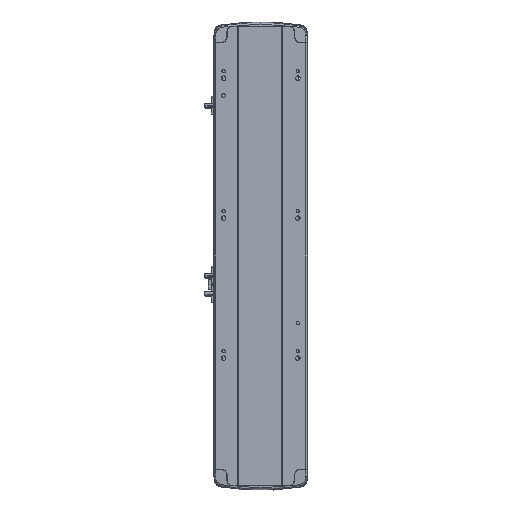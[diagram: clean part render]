
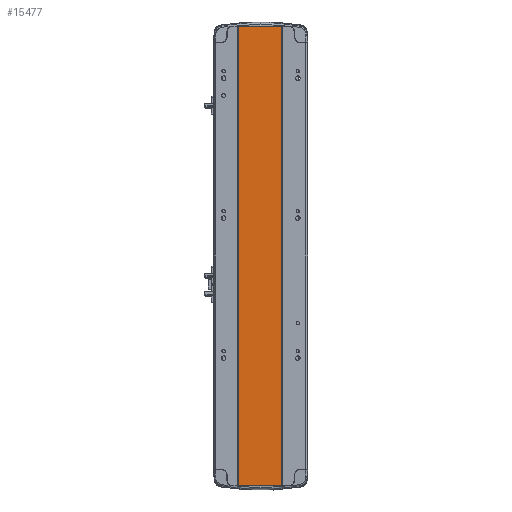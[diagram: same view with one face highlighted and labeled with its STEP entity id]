
A CAD part, front view. The second image highlights one B-rep face of the part: STEP entity #15477.
In plain terms, the highlighted planar face has unit normal (0, -1, 0).
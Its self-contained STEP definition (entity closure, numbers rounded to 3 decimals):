
#794 = DIRECTION ( 'NONE',  ( 0., 0., -1. ) ) ;
#2252 = VERTEX_POINT ( 'NONE', #30251 ) ;
#3551 = PLANE ( 'NONE',  #33805 ) ;
#4083 = EDGE_CURVE ( 'NONE', #2252, #20649, #37231, .T. ) ;
#4198 = DIRECTION ( 'NONE',  ( 0., 0., -1. ) ) ;
#5974 = VERTEX_POINT ( 'NONE', #30928 ) ;
#7061 = CARTESIAN_POINT ( 'NONE',  ( -32., 1., 0. ) ) ;
#7393 = VERTEX_POINT ( 'NONE', #12901 ) ;
#12901 = CARTESIAN_POINT ( 'NONE',  ( 30., 1., 0. ) ) ;
#14992 = EDGE_CURVE ( 'NONE', #2252, #5974, #32427, .T. ) ;
#15057 = CARTESIAN_POINT ( 'NONE',  ( -32., 1., 656. ) ) ;
#15477 = ADVANCED_FACE ( 'NONE', ( #31746 ), #3551, .F. ) ;
#16299 = DIRECTION ( 'NONE',  ( 1., 0., 0. ) ) ;
#17691 = LINE ( 'NONE', #18689, #28134 ) ;
#18689 = CARTESIAN_POINT ( 'NONE',  ( 30., 1., 656. ) ) ;
#20649 = VERTEX_POINT ( 'NONE', #29300 ) ;
#23108 = VECTOR ( 'NONE', #794, 1000. ) ;
#23303 = EDGE_LOOP ( 'NONE', ( #31751, #31999, #25386, #37906 ) ) ;
#24083 = VECTOR ( 'NONE', #31961, 1000. ) ;
#25386 = ORIENTED_EDGE ( 'NONE', *, *, #4083, .F. ) ;
#25689 = VECTOR ( 'NONE', #16299, 1000. ) ;
#28134 = VECTOR ( 'NONE', #4198, 1000. ) ;
#29300 = CARTESIAN_POINT ( 'NONE',  ( 30., 1., 656. ) ) ;
#30251 = CARTESIAN_POINT ( 'NONE',  ( -32., 1., 656. ) ) ;
#30928 = CARTESIAN_POINT ( 'NONE',  ( -32., 1., 0. ) ) ;
#31424 = CARTESIAN_POINT ( 'NONE',  ( -32., 1., 656. ) ) ;
#31746 = FACE_OUTER_BOUND ( 'NONE', #23303, .T. ) ;
#31751 = ORIENTED_EDGE ( 'NONE', *, *, #39396, .T. ) ;
#31961 = DIRECTION ( 'NONE',  ( 1., 0., 0. ) ) ;
#31999 = ORIENTED_EDGE ( 'NONE', *, *, #36267, .F. ) ;
#32427 = LINE ( 'NONE', #31424, #23108 ) ;
#33805 = AXIS2_PLACEMENT_3D ( 'NONE', #42010, #38326, #35040 ) ;
#35040 = DIRECTION ( 'NONE',  ( -1., 0., 0. ) ) ;
#36267 = EDGE_CURVE ( 'NONE', #20649, #7393, #17691, .T. ) ;
#37231 = LINE ( 'NONE', #15057, #25689 ) ;
#37906 = ORIENTED_EDGE ( 'NONE', *, *, #14992, .T. ) ;
#38326 = DIRECTION ( 'NONE',  ( 0., 1., 0. ) ) ;
#39396 = EDGE_CURVE ( 'NONE', #5974, #7393, #44989, .T. ) ;
#42010 = CARTESIAN_POINT ( 'NONE',  ( -32., 1., 656. ) ) ;
#44989 = LINE ( 'NONE', #7061, #24083 ) ;
